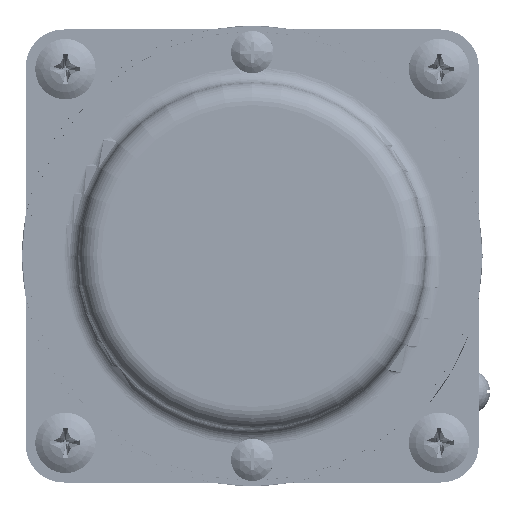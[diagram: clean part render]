
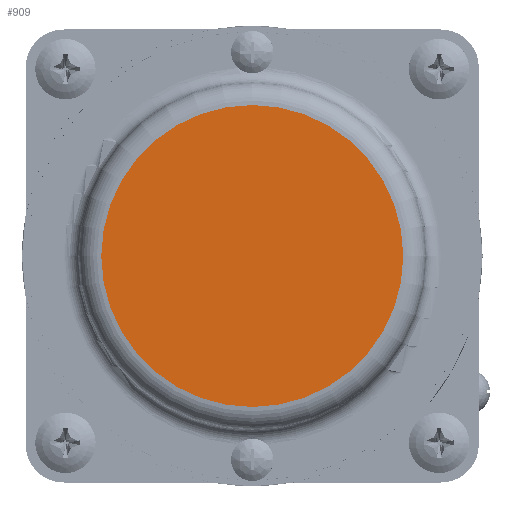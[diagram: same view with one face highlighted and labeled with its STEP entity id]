
A CAD part, left-side view. The second image highlights one B-rep face of the part: STEP entity #909.
In plain terms, the highlighted planar face has unit normal (-1, 0, 0).
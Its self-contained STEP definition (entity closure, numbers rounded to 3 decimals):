
#480=PLANE('',#5547);
#909=ADVANCED_FACE('',(#1250),#480,.T.);
#1250=FACE_OUTER_BOUND('',#1589,.T.);
#1589=EDGE_LOOP('',(#2948));
#1927=CIRCLE('',#5546,20.);
#2948=ORIENTED_EDGE('',*,*,#4533,.T.);
#3949=VERTEX_POINT('',#76043);
#4533=EDGE_CURVE('',#3949,#3949,#1927,.T.);
#5546=AXIS2_PLACEMENT_3D('',#76042,#6306,#6307);
#5547=AXIS2_PLACEMENT_3D('',#76044,#6308,#6309);
#6306=DIRECTION('',(-1.,0.,0.));
#6307=DIRECTION('',(0.,-1.,0.));
#6308=DIRECTION('',(-1.,0.,0.));
#6309=DIRECTION('',(0.,-1.,0.));
#76042=CARTESIAN_POINT('',(-86.,0.,0.));
#76043=CARTESIAN_POINT('',(-86.,-20.,0.));
#76044=CARTESIAN_POINT('',(-86.,0.,0.));
